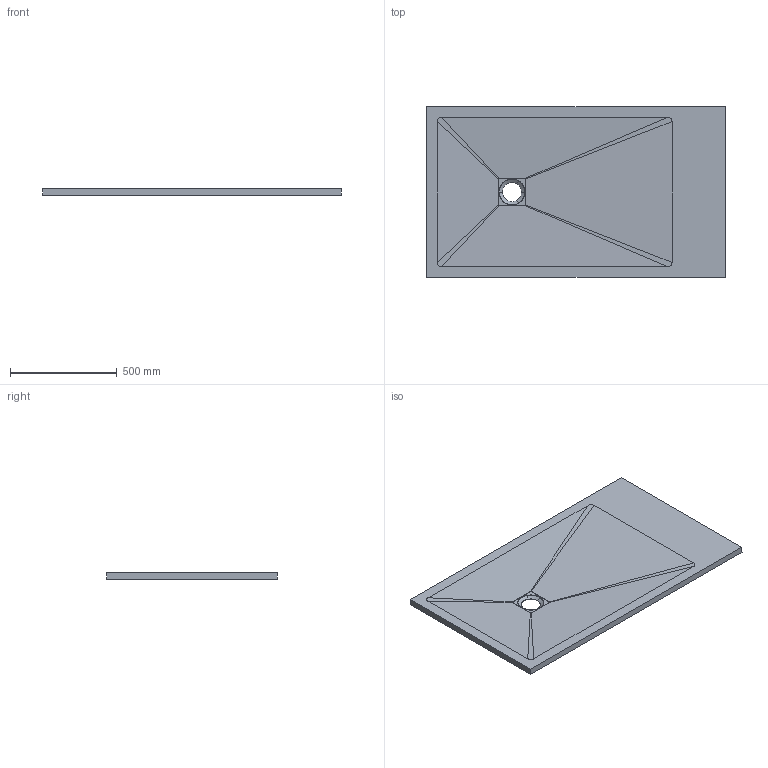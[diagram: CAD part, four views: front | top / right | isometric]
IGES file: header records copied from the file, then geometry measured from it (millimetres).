
Global section: file name: C:\Users\Utente; native system: Rhinoceros ( Aug 11 2021 ); preprocessor: Trout Lake IGES 012 Aug 11 2021; date: 220621.055629; units: millimetre
Bounding box: 1400 x 800 x 30.04 mm (x, y, z)
Surface area: 2557356.6 mm2 (no closed solid volume)
Topology: 0 solids, 0 shells, 615 faces, 5931 edges, 5822 vertices
Faces by surface type: bspline 615
